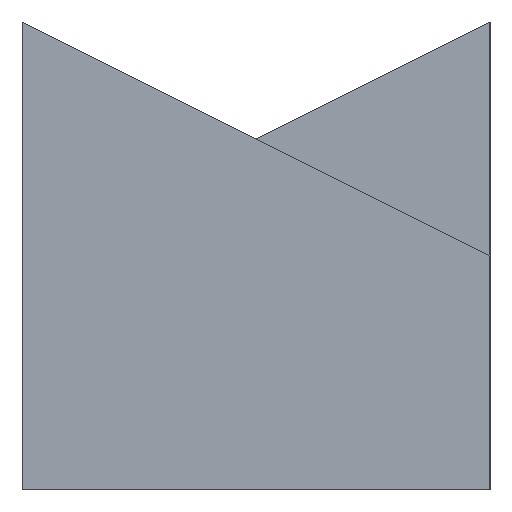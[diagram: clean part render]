
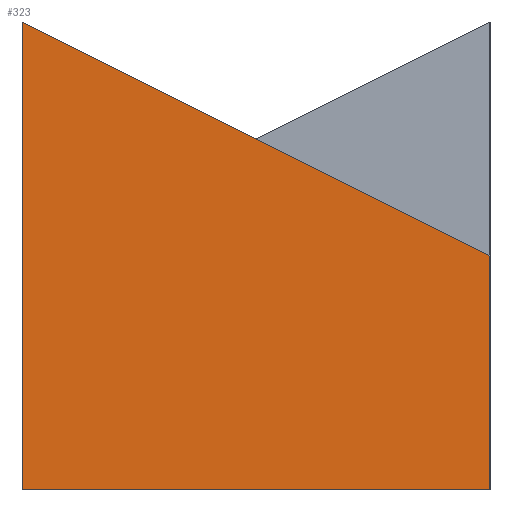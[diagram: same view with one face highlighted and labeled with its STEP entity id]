
A CAD part, left-side view. The second image highlights one B-rep face of the part: STEP entity #323.
In plain terms, the highlighted planar face has unit normal (-1, 0, 0).
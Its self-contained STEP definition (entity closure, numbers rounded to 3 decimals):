
#18=FACE_OUTER_BOUND('',#38,.T.);
#38=EDGE_LOOP('',(#226,#227,#228,#229));
#61=LINE('',#482,#105);
#65=LINE('',#490,#109);
#67=LINE('',#494,#111);
#68=LINE('',#495,#112);
#105=VECTOR('',#392,10.);
#109=VECTOR('',#398,10.);
#111=VECTOR('',#402,10.);
#112=VECTOR('',#403,10.);
#148=VERTEX_POINT('',#479);
#149=VERTEX_POINT('',#481);
#152=VERTEX_POINT('',#489);
#153=VERTEX_POINT('',#493);
#174=EDGE_CURVE('',#149,#148,#61,.T.);
#178=EDGE_CURVE('',#152,#149,#65,.T.);
#180=EDGE_CURVE('',#148,#153,#67,.T.);
#181=EDGE_CURVE('',#153,#152,#68,.T.);
#226=ORIENTED_EDGE('',*,*,#178,.T.);
#227=ORIENTED_EDGE('',*,*,#174,.T.);
#228=ORIENTED_EDGE('',*,*,#180,.T.);
#229=ORIENTED_EDGE('',*,*,#181,.T.);
#303=PLANE('',#363);
#323=ADVANCED_FACE('',(#18),#303,.T.);
#363=AXIS2_PLACEMENT_3D('',#492,#400,#401);
#392=DIRECTION('',(0.,0.,-1.));
#398=DIRECTION('',(0.,0.894,0.447));
#400=DIRECTION('center_axis',(-1.,0.,0.));
#401=DIRECTION('ref_axis',(0.,0.,1.));
#402=DIRECTION('',(0.,-1.,0.));
#403=DIRECTION('',(0.,0.,1.));
#479=CARTESIAN_POINT('',(-60.,30.,-30.));
#481=CARTESIAN_POINT('',(-60.,30.,30.));
#482=CARTESIAN_POINT('',(-60.,30.,30.));
#489=CARTESIAN_POINT('',(-60.,-30.,0.));
#490=CARTESIAN_POINT('',(-60.,-30.,0.));
#492=CARTESIAN_POINT('Origin',(-60.,0.,0.));
#493=CARTESIAN_POINT('',(-60.,-30.,-30.));
#494=CARTESIAN_POINT('',(-60.,30.,-30.));
#495=CARTESIAN_POINT('',(-60.,-30.,-30.));
